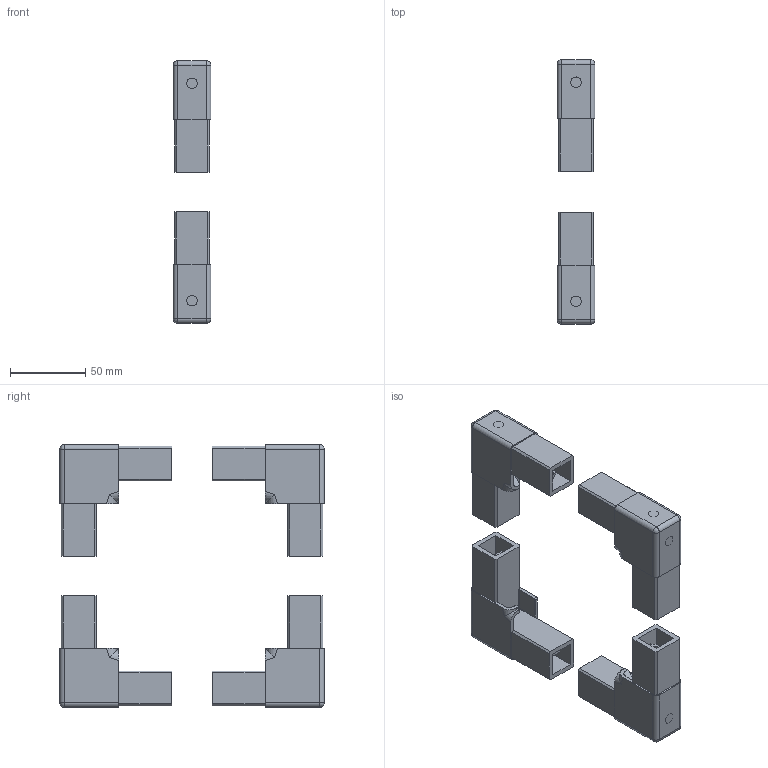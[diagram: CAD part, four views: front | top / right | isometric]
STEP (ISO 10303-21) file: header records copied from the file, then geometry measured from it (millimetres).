
FILE_DESCRIPTION (( 'STEP AP214' ), '1' );
FILE_NAME ('L15845 ENS.step', '2024-12-03T16:22:19', ( '' ), ( '' ), 'SwSTEP 2.0', 'SolidWorks 2023', '' );
FILE_SCHEMA (( 'AUTOMOTIVE_DESIGN' ));
Length unit declared in the file: millimetre
Products named in the file (2): L15845; L15845 ENS
Assembly tree (4 placements, depth 2):
  L15845 ENS
    L15845  x4
Bounding box: 25 x 175.16 x 173.94 mm (x, y, z)
Volume: 173396.3 mm3; surface area: 114384.6 mm2
Topology: 4 solids, 4 shells, 752 faces, 2320 edges, 1508 vertices
Faces by surface type: plane 464, cylinder 244, torus 20, bspline 16, sphere 8
Full cylindrical faces by diameter (mm): 7 x12
Entity records: 6726 total; most frequent: CARTESIAN_POINT 1524, ORIENTED_EDGE 1132, DIRECTION 1025, EDGE_CURVE 566, LINE 405, VECTOR 405, VERTEX_POINT 370, AXIS2_PLACEMENT_3D 310
